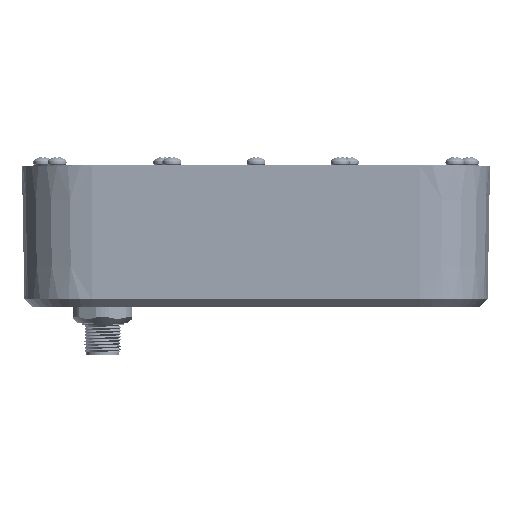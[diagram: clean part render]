
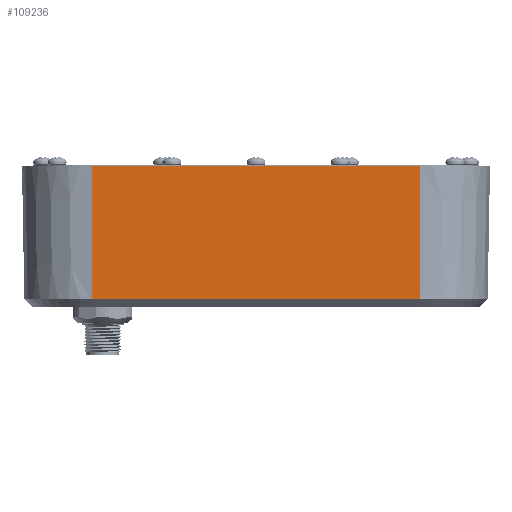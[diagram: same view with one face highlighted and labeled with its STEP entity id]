
A CAD part, left-side view. The second image highlights one B-rep face of the part: STEP entity #109236.
In plain terms, the highlighted planar face has unit normal (-1, 0, -0.018).
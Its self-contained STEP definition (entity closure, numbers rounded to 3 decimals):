
#6868 = CARTESIAN_POINT ( 'NONE',  ( -118.059, 52.57, 2.544 ) ) ;
#8030 = EDGE_CURVE ( 'NONE', #20976, #80155, #89075, .T. ) ;
#9935 = LINE ( 'NONE', #58338, #67984 ) ;
#12381 = DIRECTION ( 'NONE',  ( 0.017, 0., -1. ) ) ;
#13515 = VECTOR ( 'NONE', #89679, 1000. ) ;
#16618 = EDGE_LOOP ( 'NONE', ( #49583, #89116, #22047, #113567 ) ) ;
#20976 = VERTEX_POINT ( 'NONE', #106526 ) ;
#22047 = ORIENTED_EDGE ( 'NONE', *, *, #8030, .F. ) ;
#31113 = DIRECTION ( 'NONE',  ( 0., -1., 0. ) ) ;
#34976 = DIRECTION ( 'NONE',  ( -1., 0., -0.017 ) ) ;
#35669 = AXIS2_PLACEMENT_3D ( 'NONE', #111388, #34976, #109538 ) ;
#37677 = VECTOR ( 'NONE', #31113, 1000. ) ;
#44531 = CARTESIAN_POINT ( 'NONE',  ( -118.059, 52.57, 2.544 ) ) ;
#45477 = PLANE ( 'NONE',  #35669 ) ;
#49583 = ORIENTED_EDGE ( 'NONE', *, *, #86480, .T. ) ;
#58338 = CARTESIAN_POINT ( 'NONE',  ( -118.8, 52.57, 45. ) ) ;
#62233 = VERTEX_POINT ( 'NONE', #44531 ) ;
#62730 = LINE ( 'NONE', #6868, #97616 ) ;
#67984 = VECTOR ( 'NONE', #12381, 1000. ) ;
#71650 = CARTESIAN_POINT ( 'NONE',  ( -118.8, -52.57, 45. ) ) ;
#79665 = CARTESIAN_POINT ( 'NONE',  ( -118.8, 52.57, 45. ) ) ;
#80155 = VERTEX_POINT ( 'NONE', #98831 ) ;
#86480 = EDGE_CURVE ( 'NONE', #91841, #62233, #9935, .T. ) ;
#89075 = LINE ( 'NONE', #71650, #13515 ) ;
#89116 = ORIENTED_EDGE ( 'NONE', *, *, #112775, .T. ) ;
#89679 = DIRECTION ( 'NONE',  ( 0.017, 0., -1. ) ) ;
#91841 = VERTEX_POINT ( 'NONE', #79665 ) ;
#96473 = EDGE_CURVE ( 'NONE', #91841, #20976, #114996, .T. ) ;
#97616 = VECTOR ( 'NONE', #98839, 1000. ) ;
#98831 = CARTESIAN_POINT ( 'NONE',  ( -118.059, -52.57, 2.544 ) ) ;
#98839 = DIRECTION ( 'NONE',  ( 0., -1., 0. ) ) ;
#106526 = CARTESIAN_POINT ( 'NONE',  ( -118.8, -52.57, 45. ) ) ;
#109236 = ADVANCED_FACE ( 'NONE', ( #118901 ), #45477, .T. ) ;
#109538 = DIRECTION ( 'NONE',  ( -0.017, 0., 1. ) ) ;
#111388 = CARTESIAN_POINT ( 'NONE',  ( -118.8, 52.57, 45. ) ) ;
#112775 = EDGE_CURVE ( 'NONE', #62233, #80155, #62730, .T. ) ;
#113567 = ORIENTED_EDGE ( 'NONE', *, *, #96473, .F. ) ;
#114996 = LINE ( 'NONE', #116227, #37677 ) ;
#116227 = CARTESIAN_POINT ( 'NONE',  ( -118.8, 52.57, 45. ) ) ;
#118901 = FACE_OUTER_BOUND ( 'NONE', #16618, .T. ) ;
